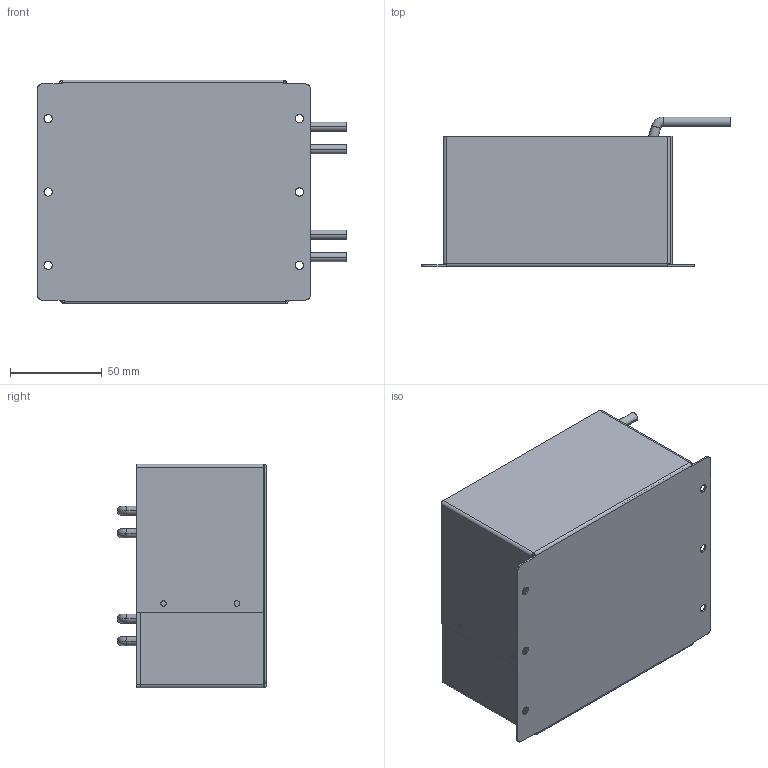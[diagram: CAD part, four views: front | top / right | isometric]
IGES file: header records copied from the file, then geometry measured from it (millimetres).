
Start section: SolidWorks IGES file using analytic representation for surfaces
Global section: file name: 19H\\10.106.230.1\r&d file\05_COMP\02_Mechanical\10_Others\PV_RT 81\网络用3D模型\灌封模型\S-5KW-P-ACL\S-5KW_P_ACL 总装.IGS; native system: SolidWorks 2009; preprocessor: SolidWorks 2009; author: 钱雅婧, ,; organization: 11; date: 120507.171104; units: millimetre
Bounding box: 168.9 x 81.5 x 122 mm (x, y, z)
Surface area: 173185.9 mm2 (no closed solid volume)
Topology: 0 solids, 0 shells, 128 faces, 928 edges, 928 vertices
Faces by surface type: bspline 72, revolution 56
